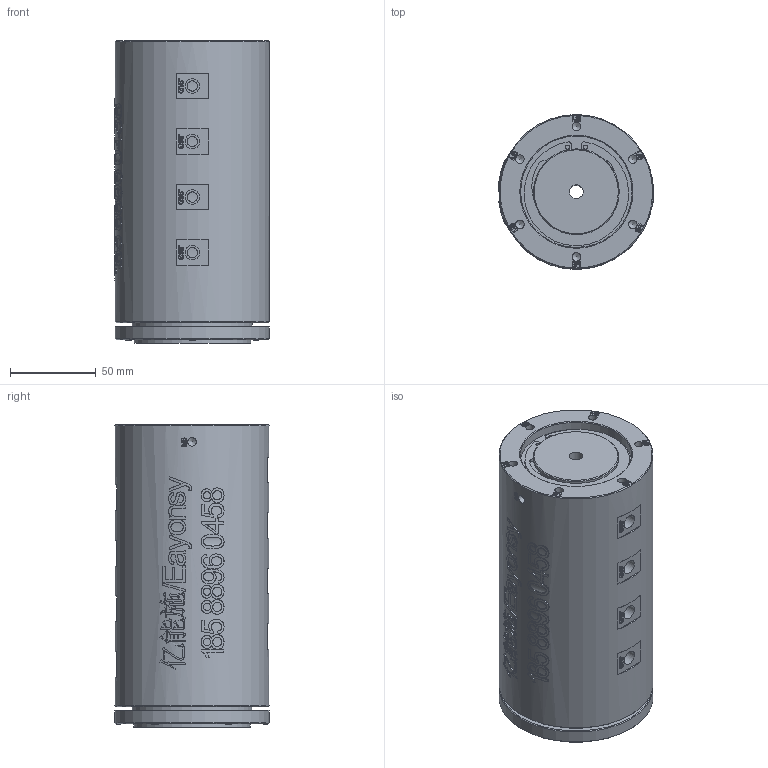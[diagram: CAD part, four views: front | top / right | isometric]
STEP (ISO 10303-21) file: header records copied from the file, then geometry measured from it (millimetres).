
FILE_DESCRIPTION(/* description */ (''),/* implementation_level */ '2;1');
FILE_NAME(/* name */ 'YY0801-3D模型.stp',/* time_stamp */ '2025-09-13T08:47:29+08:00',/* author */ (''),/* organization */ (''),/* preprocessor_version */ 'ST-DEVELOPER v16.7',/* originating_system */ 'SIEMENS PLM Software NX 12.0',/* authorisation */ '');
FILE_SCHEMA (('AUTOMOTIVE_DESIGN { 1 0 10303 214 3 1 1 1 }'));
Products named in the file (1): Admi3538CC39i3g9
Bounding box: 90.58 x 90 x 176.9 mm (x, y, z)
Volume: 1081304 mm3; surface area: 81753 mm2
Topology: 1 solids, 1 shells, 2997 faces, 8228 edges, 5487 vertices
Faces by surface type: extrusion 1816, plane 923, bspline 153, cylinder 91, cone 14
Full cylindrical faces by diameter (mm): 2.5 x2, 5 x14, 6 x16, 8 x1, 8.5 x16, 48 x1, 50 x1, 65 x1, 68 x1, 70 x1, 90 x2
Entity records: 114347 total; most frequent: CARTESIAN_POINT 51580, ORIENTED_EDGE 16206, B_SPLINE_CURVE_WITH_KNOTS 8236, EDGE_CURVE 8103, DIRECTION 5852, VERTEX_POINT 5441, EDGE_LOOP 3336, VECTOR 3204
